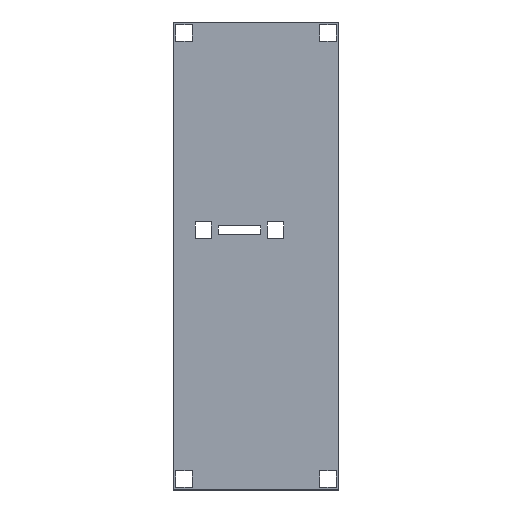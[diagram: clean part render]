
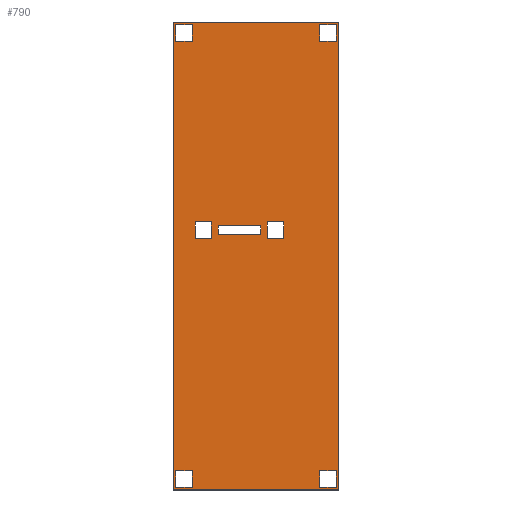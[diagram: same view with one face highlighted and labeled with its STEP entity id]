
A CAD part, top view. The second image highlights one B-rep face of the part: STEP entity #790.
In plain terms, the highlighted planar face has unit normal (0, 0, 1).
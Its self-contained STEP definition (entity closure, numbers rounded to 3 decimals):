
#84=FACE_BOUND('',#165,.T.);
#85=FACE_BOUND('',#166,.T.);
#86=FACE_BOUND('',#167,.T.);
#87=FACE_BOUND('',#168,.T.);
#88=FACE_BOUND('',#169,.T.);
#89=FACE_BOUND('',#170,.T.);
#90=FACE_BOUND('',#171,.T.);
#130=FACE_OUTER_BOUND('',#164,.T.);
#164=EDGE_LOOP('',(#660,#661,#662,#663));
#165=EDGE_LOOP('',(#664,#665,#666,#667));
#166=EDGE_LOOP('',(#668,#669,#670,#671));
#167=EDGE_LOOP('',(#672,#673,#674,#675));
#168=EDGE_LOOP('',(#676,#677,#678,#679));
#169=EDGE_LOOP('',(#680,#681,#682,#683));
#170=EDGE_LOOP('',(#684,#685,#686,#687));
#171=EDGE_LOOP('',(#688,#689,#690,#691));
#180=LINE('',#1016,#276);
#184=LINE('',#1024,#280);
#187=LINE('',#1030,#283);
#190=LINE('',#1035,#286);
#192=LINE('',#1040,#288);
#196=LINE('',#1048,#292);
#199=LINE('',#1054,#295);
#202=LINE('',#1059,#298);
#204=LINE('',#1064,#300);
#208=LINE('',#1072,#304);
#211=LINE('',#1078,#307);
#214=LINE('',#1083,#310);
#216=LINE('',#1088,#312);
#220=LINE('',#1096,#316);
#223=LINE('',#1102,#319);
#226=LINE('',#1107,#322);
#228=LINE('',#1112,#324);
#232=LINE('',#1120,#328);
#235=LINE('',#1126,#331);
#238=LINE('',#1131,#334);
#240=LINE('',#1136,#336);
#244=LINE('',#1144,#340);
#247=LINE('',#1150,#343);
#250=LINE('',#1155,#346);
#252=LINE('',#1160,#348);
#256=LINE('',#1168,#352);
#259=LINE('',#1174,#355);
#262=LINE('',#1179,#358);
#264=LINE('',#1184,#360);
#268=LINE('',#1192,#364);
#271=LINE('',#1198,#367);
#274=LINE('',#1203,#370);
#276=VECTOR('',#850,10.);
#280=VECTOR('',#856,10.);
#283=VECTOR('',#861,10.);
#286=VECTOR('',#866,10.);
#288=VECTOR('',#870,10.);
#292=VECTOR('',#876,10.);
#295=VECTOR('',#881,10.);
#298=VECTOR('',#886,10.);
#300=VECTOR('',#890,10.);
#304=VECTOR('',#896,10.);
#307=VECTOR('',#901,10.);
#310=VECTOR('',#906,10.);
#312=VECTOR('',#910,10.);
#316=VECTOR('',#916,10.);
#319=VECTOR('',#921,10.);
#322=VECTOR('',#926,10.);
#324=VECTOR('',#930,10.);
#328=VECTOR('',#936,10.);
#331=VECTOR('',#941,10.);
#334=VECTOR('',#946,10.);
#336=VECTOR('',#950,10.);
#340=VECTOR('',#956,10.);
#343=VECTOR('',#961,10.);
#346=VECTOR('',#966,10.);
#348=VECTOR('',#970,10.);
#352=VECTOR('',#976,10.);
#355=VECTOR('',#981,10.);
#358=VECTOR('',#986,10.);
#360=VECTOR('',#990,10.);
#364=VECTOR('',#996,10.);
#367=VECTOR('',#1001,10.);
#370=VECTOR('',#1006,10.);
#372=VERTEX_POINT('',#1014);
#373=VERTEX_POINT('',#1015);
#376=VERTEX_POINT('',#1023);
#378=VERTEX_POINT('',#1029);
#380=VERTEX_POINT('',#1038);
#381=VERTEX_POINT('',#1039);
#384=VERTEX_POINT('',#1047);
#386=VERTEX_POINT('',#1053);
#388=VERTEX_POINT('',#1062);
#389=VERTEX_POINT('',#1063);
#392=VERTEX_POINT('',#1071);
#394=VERTEX_POINT('',#1077);
#396=VERTEX_POINT('',#1086);
#397=VERTEX_POINT('',#1087);
#400=VERTEX_POINT('',#1095);
#402=VERTEX_POINT('',#1101);
#404=VERTEX_POINT('',#1110);
#405=VERTEX_POINT('',#1111);
#408=VERTEX_POINT('',#1119);
#410=VERTEX_POINT('',#1125);
#412=VERTEX_POINT('',#1134);
#413=VERTEX_POINT('',#1135);
#416=VERTEX_POINT('',#1143);
#418=VERTEX_POINT('',#1149);
#420=VERTEX_POINT('',#1158);
#421=VERTEX_POINT('',#1159);
#424=VERTEX_POINT('',#1167);
#426=VERTEX_POINT('',#1173);
#428=VERTEX_POINT('',#1182);
#429=VERTEX_POINT('',#1183);
#432=VERTEX_POINT('',#1191);
#434=VERTEX_POINT('',#1197);
#436=EDGE_CURVE('',#372,#373,#180,.T.);
#440=EDGE_CURVE('',#373,#376,#184,.T.);
#443=EDGE_CURVE('',#376,#378,#187,.T.);
#446=EDGE_CURVE('',#378,#372,#190,.T.);
#448=EDGE_CURVE('',#380,#381,#192,.T.);
#452=EDGE_CURVE('',#381,#384,#196,.T.);
#455=EDGE_CURVE('',#384,#386,#199,.T.);
#458=EDGE_CURVE('',#386,#380,#202,.T.);
#460=EDGE_CURVE('',#388,#389,#204,.T.);
#464=EDGE_CURVE('',#389,#392,#208,.T.);
#467=EDGE_CURVE('',#392,#394,#211,.T.);
#470=EDGE_CURVE('',#394,#388,#214,.T.);
#472=EDGE_CURVE('',#396,#397,#216,.T.);
#476=EDGE_CURVE('',#397,#400,#220,.T.);
#479=EDGE_CURVE('',#400,#402,#223,.T.);
#482=EDGE_CURVE('',#402,#396,#226,.T.);
#484=EDGE_CURVE('',#404,#405,#228,.T.);
#488=EDGE_CURVE('',#405,#408,#232,.T.);
#491=EDGE_CURVE('',#408,#410,#235,.T.);
#494=EDGE_CURVE('',#410,#404,#238,.T.);
#496=EDGE_CURVE('',#412,#413,#240,.T.);
#500=EDGE_CURVE('',#413,#416,#244,.T.);
#503=EDGE_CURVE('',#416,#418,#247,.T.);
#506=EDGE_CURVE('',#418,#412,#250,.T.);
#508=EDGE_CURVE('',#420,#421,#252,.T.);
#512=EDGE_CURVE('',#421,#424,#256,.T.);
#515=EDGE_CURVE('',#424,#426,#259,.T.);
#518=EDGE_CURVE('',#426,#420,#262,.T.);
#520=EDGE_CURVE('',#428,#429,#264,.T.);
#524=EDGE_CURVE('',#429,#432,#268,.T.);
#527=EDGE_CURVE('',#432,#434,#271,.T.);
#530=EDGE_CURVE('',#434,#428,#274,.T.);
#660=ORIENTED_EDGE('',*,*,#530,.T.);
#661=ORIENTED_EDGE('',*,*,#520,.T.);
#662=ORIENTED_EDGE('',*,*,#524,.T.);
#663=ORIENTED_EDGE('',*,*,#527,.T.);
#664=ORIENTED_EDGE('',*,*,#518,.T.);
#665=ORIENTED_EDGE('',*,*,#508,.T.);
#666=ORIENTED_EDGE('',*,*,#512,.T.);
#667=ORIENTED_EDGE('',*,*,#515,.T.);
#668=ORIENTED_EDGE('',*,*,#506,.T.);
#669=ORIENTED_EDGE('',*,*,#496,.T.);
#670=ORIENTED_EDGE('',*,*,#500,.T.);
#671=ORIENTED_EDGE('',*,*,#503,.T.);
#672=ORIENTED_EDGE('',*,*,#494,.T.);
#673=ORIENTED_EDGE('',*,*,#484,.T.);
#674=ORIENTED_EDGE('',*,*,#488,.T.);
#675=ORIENTED_EDGE('',*,*,#491,.T.);
#676=ORIENTED_EDGE('',*,*,#482,.T.);
#677=ORIENTED_EDGE('',*,*,#472,.T.);
#678=ORIENTED_EDGE('',*,*,#476,.T.);
#679=ORIENTED_EDGE('',*,*,#479,.T.);
#680=ORIENTED_EDGE('',*,*,#470,.T.);
#681=ORIENTED_EDGE('',*,*,#460,.T.);
#682=ORIENTED_EDGE('',*,*,#464,.T.);
#683=ORIENTED_EDGE('',*,*,#467,.T.);
#684=ORIENTED_EDGE('',*,*,#458,.T.);
#685=ORIENTED_EDGE('',*,*,#448,.T.);
#686=ORIENTED_EDGE('',*,*,#452,.T.);
#687=ORIENTED_EDGE('',*,*,#455,.T.);
#688=ORIENTED_EDGE('',*,*,#446,.T.);
#689=ORIENTED_EDGE('',*,*,#436,.T.);
#690=ORIENTED_EDGE('',*,*,#440,.T.);
#691=ORIENTED_EDGE('',*,*,#443,.T.);
#756=PLANE('',#844);
#790=ADVANCED_FACE('',(#130,#84,#85,#86,#87,#88,#89,#90),#756,.T.);
#844=AXIS2_PLACEMENT_3D('',#1205,#1008,#1009);
#850=DIRECTION('',(0.,-1.,0.));
#856=DIRECTION('',(-1.,0.,0.));
#861=DIRECTION('',(0.,1.,0.));
#866=DIRECTION('',(1.,0.,0.));
#870=DIRECTION('',(0.,-1.,0.));
#876=DIRECTION('',(-1.,0.,0.));
#881=DIRECTION('',(0.,1.,0.));
#886=DIRECTION('',(1.,0.,0.));
#890=DIRECTION('',(0.,-1.,0.));
#896=DIRECTION('',(-1.,0.,0.));
#901=DIRECTION('',(0.,1.,0.));
#906=DIRECTION('',(1.,0.,0.));
#910=DIRECTION('',(0.,-1.,0.));
#916=DIRECTION('',(-1.,0.,0.));
#921=DIRECTION('',(0.,1.,0.));
#926=DIRECTION('',(1.,0.,0.));
#930=DIRECTION('',(0.,-1.,0.));
#936=DIRECTION('',(-1.,0.,0.));
#941=DIRECTION('',(0.,1.,0.));
#946=DIRECTION('',(1.,0.,0.));
#950=DIRECTION('',(0.,-1.,0.));
#956=DIRECTION('',(-1.,0.,0.));
#961=DIRECTION('',(0.,1.,0.));
#966=DIRECTION('',(1.,0.,0.));
#970=DIRECTION('',(0.,-1.,0.));
#976=DIRECTION('',(-1.,0.,0.));
#981=DIRECTION('',(0.,1.,0.));
#986=DIRECTION('',(1.,0.,0.));
#990=DIRECTION('',(0.,-1.,0.));
#996=DIRECTION('',(1.,0.,0.));
#1001=DIRECTION('',(0.,1.,0.));
#1006=DIRECTION('',(-1.,0.,0.));
#1008=DIRECTION('center_axis',(0.,0.,1.));
#1009=DIRECTION('ref_axis',(1.,0.,0.));
#1014=CARTESIAN_POINT('',(-46.7,169.25,0.));
#1015=CARTESIAN_POINT('',(-46.7,157.25,0.));
#1016=CARTESIAN_POINT('',(-46.7,169.25,0.));
#1023=CARTESIAN_POINT('',(-58.7,157.25,0.));
#1024=CARTESIAN_POINT('',(-46.7,157.25,0.));
#1029=CARTESIAN_POINT('',(-58.7,169.25,0.));
#1030=CARTESIAN_POINT('',(-58.7,157.25,0.));
#1035=CARTESIAN_POINT('',(-58.7,169.25,0.));
#1038=CARTESIAN_POINT('',(-32.6,24.95,0.));
#1039=CARTESIAN_POINT('',(-32.6,12.95,0.));
#1040=CARTESIAN_POINT('',(-32.6,24.95,0.));
#1047=CARTESIAN_POINT('',(-44.6,12.95,0.));
#1048=CARTESIAN_POINT('',(-32.6,12.95,0.));
#1053=CARTESIAN_POINT('',(-44.6,24.95,0.));
#1054=CARTESIAN_POINT('',(-44.6,12.95,0.));
#1059=CARTESIAN_POINT('',(-44.6,24.95,0.));
#1062=CARTESIAN_POINT('',(20.4,24.95,0.));
#1063=CARTESIAN_POINT('',(20.4,12.95,0.));
#1064=CARTESIAN_POINT('',(20.4,24.95,0.));
#1071=CARTESIAN_POINT('',(8.4,12.95,0.));
#1072=CARTESIAN_POINT('',(20.4,12.95,0.));
#1077=CARTESIAN_POINT('',(8.4,24.95,0.));
#1078=CARTESIAN_POINT('',(8.4,12.95,0.));
#1083=CARTESIAN_POINT('',(8.4,24.95,0.));
#1086=CARTESIAN_POINT('',(3.4,22.15,0.));
#1087=CARTESIAN_POINT('',(3.4,15.75,0.));
#1088=CARTESIAN_POINT('',(3.4,22.15,0.));
#1095=CARTESIAN_POINT('',(-27.6,15.75,0.));
#1096=CARTESIAN_POINT('',(3.4,15.75,0.));
#1101=CARTESIAN_POINT('',(-27.6,22.15,0.));
#1102=CARTESIAN_POINT('',(-27.6,15.75,0.));
#1107=CARTESIAN_POINT('',(-27.6,22.15,0.));
#1110=CARTESIAN_POINT('',(58.7,169.25,0.));
#1111=CARTESIAN_POINT('',(58.7,157.25,0.));
#1112=CARTESIAN_POINT('',(58.7,169.25,0.));
#1119=CARTESIAN_POINT('',(46.7,157.25,0.));
#1120=CARTESIAN_POINT('',(58.7,157.25,0.));
#1125=CARTESIAN_POINT('',(46.7,169.25,0.));
#1126=CARTESIAN_POINT('',(46.7,157.25,0.));
#1131=CARTESIAN_POINT('',(46.7,169.25,0.));
#1134=CARTESIAN_POINT('',(-46.7,-157.25,0.));
#1135=CARTESIAN_POINT('',(-46.7,-169.25,0.));
#1136=CARTESIAN_POINT('',(-46.7,-157.25,0.));
#1143=CARTESIAN_POINT('',(-58.7,-169.25,0.));
#1144=CARTESIAN_POINT('',(-46.7,-169.25,0.));
#1149=CARTESIAN_POINT('',(-58.7,-157.25,0.));
#1150=CARTESIAN_POINT('',(-58.7,-169.25,0.));
#1155=CARTESIAN_POINT('',(-58.7,-157.25,0.));
#1158=CARTESIAN_POINT('',(58.7,-157.25,0.));
#1159=CARTESIAN_POINT('',(58.7,-169.25,0.));
#1160=CARTESIAN_POINT('',(58.7,-157.25,0.));
#1167=CARTESIAN_POINT('',(46.7,-169.25,0.));
#1168=CARTESIAN_POINT('',(58.7,-169.25,0.));
#1173=CARTESIAN_POINT('',(46.7,-157.25,0.));
#1174=CARTESIAN_POINT('',(46.7,-169.25,0.));
#1179=CARTESIAN_POINT('',(46.7,-157.25,0.));
#1182=CARTESIAN_POINT('',(-60.7,171.25,0.));
#1183=CARTESIAN_POINT('',(-60.7,-171.25,0.));
#1184=CARTESIAN_POINT('',(-60.7,171.25,0.));
#1191=CARTESIAN_POINT('',(60.7,-171.25,0.));
#1192=CARTESIAN_POINT('',(-60.7,-171.25,0.));
#1197=CARTESIAN_POINT('',(60.7,171.25,0.));
#1198=CARTESIAN_POINT('',(60.7,-171.25,0.));
#1203=CARTESIAN_POINT('',(60.7,171.25,0.));
#1205=CARTESIAN_POINT('Origin',(0.,0.,0.));
